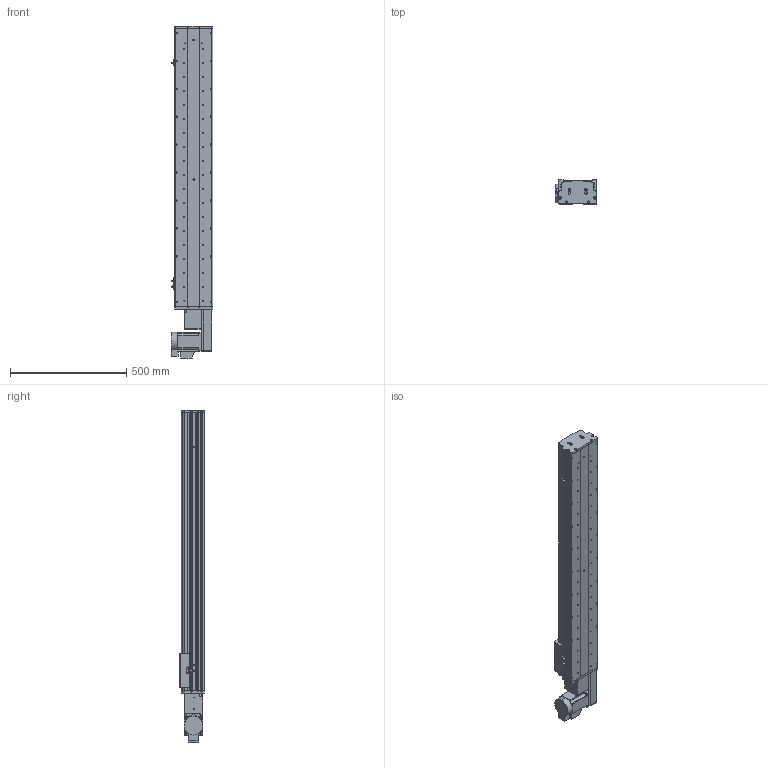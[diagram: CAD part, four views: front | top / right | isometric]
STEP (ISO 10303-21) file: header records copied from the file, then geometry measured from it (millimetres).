
FILE_DESCRIPTION (( 'STEP AP214' ), '1' );
FILE_NAME ('KSD165B-S950-MRB-CM .STEP', '2017-10-16T08:56:10', ( '微软用户' ), ( '微软中国' ), 'SwSTEP 2.0', 'SolidWorks 2014', '' );
FILE_SCHEMA (( 'AUTOMOTIVE_DESIGN' ));
Length unit declared in the file: millimetre
Products named in the file (17): KSD165B-S950-MRB-CM ; HTPA26S5M250-A-H8 750W萇儂蚚; HTPA26S5M250-A-H8 400W萇儂蚚 ; 130宽模组马达安装板连板左右折同步带; 130宽模组保护罩上下左右折-同步带; KSD165模组-同步带防尘盖1-950行程-最新版; KSD165模组同步带底板-950行程-最新; 拸秶雄ん750W侜督萇儂; 165宽马达安装板同步带右; U倰嫖萇假蚾璃; U倰嫖萇EEㄜSX672; 覜茼え68遵圉猾敕; KSD165模组-同步带-防撞垫2; KSD165模组同步带-防撞垫1; KSD165耀郪-ヶ傷啣1-肮祭湍; KSD165模组-后端板1-同步带; KSD165模组-同步带滑动座-最新版
Assembly tree (20 placements, depth 2):
  KSD165B-S950-MRB-CM 
    KSD165模组-同步带滑动座-最新版
    KSD165模组-后端板1-同步带
    KSD165耀郪-ヶ傷啣1-肮祭湍
    KSD165模组同步带-防撞垫1
    KSD165模组-同步带-防撞垫2
    覜茼え68遵圉猾敕
    U倰嫖萇EEㄜSX672  x3
    U倰嫖萇假蚾璃  x3
    165宽马达安装板同步带右
    拸秶雄ん750W侜督萇儂
    KSD165模组同步带底板-950行程-最新
    KSD165模组-同步带防尘盖1-950行程-最新版
    130宽模组保护罩上下左右折-同步带
    130宽模组马达安装板连板左右折同步带
    HTPA26S5M250-A-H8 400W萇儂蚚 
    HTPA26S5M250-A-H8 750W萇儂蚚
Bounding box: 178.7 x 104 x 1427.5 mm (x, y, z)
Volume: 7694080.5 mm3; surface area: 1786193.3 mm2
Topology: 21 solids, 21 shells, 1961 faces, 5538 edges, 3616 vertices
Faces by surface type: cylinder 1263, plane 586, cone 112
Entity records: 63724 total; most frequent: CARTESIAN_POINT 13048, DIRECTION 10470, ORIENTED_EDGE 9736, EDGE_CURVE 4868, AXIS2_PLACEMENT_3D 4108, VERTEX_POINT 3208, CIRCLE 2344, LINE 2254
